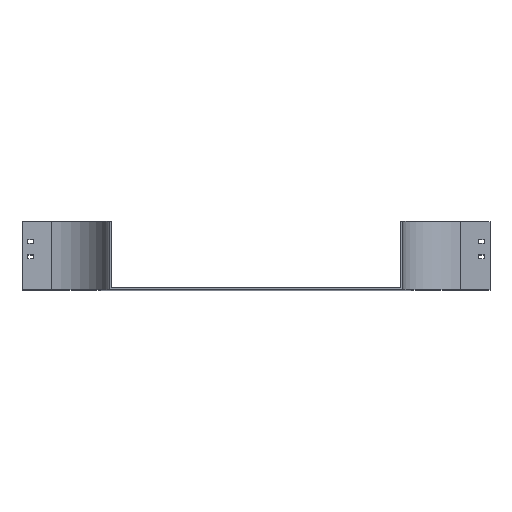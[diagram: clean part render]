
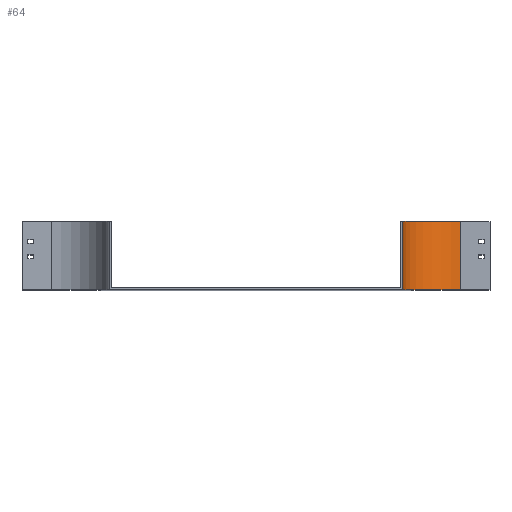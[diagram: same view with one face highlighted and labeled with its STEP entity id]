
A CAD part, top view. The second image highlights one B-rep face of the part: STEP entity #64.
In plain terms, the highlighted cylindrical face has radius 100 mm (diameter 200 mm), a partial arc.
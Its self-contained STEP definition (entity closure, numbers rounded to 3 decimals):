
#53 = ORIENTED_EDGE ( 'NONE', *, *, #2184, .F. ) ;
#64 = ADVANCED_FACE ( 'NONE', ( #3107 ), #1019, .F. ) ;
#175 = CARTESIAN_POINT ( 'NONE',  ( 0., 0., -100. ) ) ;
#192 = CARTESIAN_POINT ( 'NONE',  ( 0., 0., 0. ) ) ;
#214 = AXIS2_PLACEMENT_3D ( 'NONE', #192, #3747, #2302 ) ;
#277 = CARTESIAN_POINT ( 'NONE',  ( -100., 117.5, 0. ) ) ;
#318 = VERTEX_POINT ( 'NONE', #2675 ) ;
#431 = VERTEX_POINT ( 'NONE', #277 ) ;
#451 = AXIS2_PLACEMENT_3D ( 'NONE', #1642, #1043, #2883 ) ;
#483 = VERTEX_POINT ( 'NONE', #175 ) ;
#587 = ORIENTED_EDGE ( 'NONE', *, *, #1972, .F. ) ;
#1001 = EDGE_CURVE ( 'NONE', #318, #483, #1904, .T. ) ;
#1019 = CYLINDRICAL_SURFACE ( 'NONE', #451, 100. ) ;
#1043 = DIRECTION ( 'NONE',  ( 0., -1., 0. ) ) ;
#1083 = EDGE_LOOP ( 'NONE', ( #3534, #53, #587, #3200 ) ) ;
#1275 = VECTOR ( 'NONE', #2870, 1000. ) ;
#1372 = DIRECTION ( 'NONE',  ( 0., -1., 0. ) ) ;
#1441 = LINE ( 'NONE', #2613, #1275 ) ;
#1642 = CARTESIAN_POINT ( 'NONE',  ( 0., 117.5, 0. ) ) ;
#1651 = AXIS2_PLACEMENT_3D ( 'NONE', #2248, #1372, #2230 ) ;
#1904 = CIRCLE ( 'NONE', #214, 100. ) ;
#1972 = EDGE_CURVE ( 'NONE', #431, #2668, #3325, .T. ) ;
#2105 = DIRECTION ( 'NONE',  ( 0., -1., 0. ) ) ;
#2184 = EDGE_CURVE ( 'NONE', #2668, #483, #1441, .T. ) ;
#2230 = DIRECTION ( 'NONE',  ( 0., 0., -1. ) ) ;
#2248 = CARTESIAN_POINT ( 'NONE',  ( 0., 117.5, 0. ) ) ;
#2257 = EDGE_CURVE ( 'NONE', #431, #318, #3274, .T. ) ;
#2302 = DIRECTION ( 'NONE',  ( 0., 0., -1. ) ) ;
#2370 = CARTESIAN_POINT ( 'NONE',  ( 0., 117.5, -100. ) ) ;
#2613 = CARTESIAN_POINT ( 'NONE',  ( 0., 117.5, -100. ) ) ;
#2668 = VERTEX_POINT ( 'NONE', #2370 ) ;
#2675 = CARTESIAN_POINT ( 'NONE',  ( -100., 0., 0. ) ) ;
#2870 = DIRECTION ( 'NONE',  ( 0., -1., 0. ) ) ;
#2883 = DIRECTION ( 'NONE',  ( 0., 0., -1. ) ) ;
#3107 = FACE_OUTER_BOUND ( 'NONE', #1083, .T. ) ;
#3200 = ORIENTED_EDGE ( 'NONE', *, *, #2257, .T. ) ;
#3274 = LINE ( 'NONE', #3823, #3499 ) ;
#3325 = CIRCLE ( 'NONE', #1651, 100. ) ;
#3499 = VECTOR ( 'NONE', #2105, 1000. ) ;
#3534 = ORIENTED_EDGE ( 'NONE', *, *, #1001, .T. ) ;
#3747 = DIRECTION ( 'NONE',  ( 0., -1., 0. ) ) ;
#3823 = CARTESIAN_POINT ( 'NONE',  ( -100., 117.5, 0. ) ) ;
